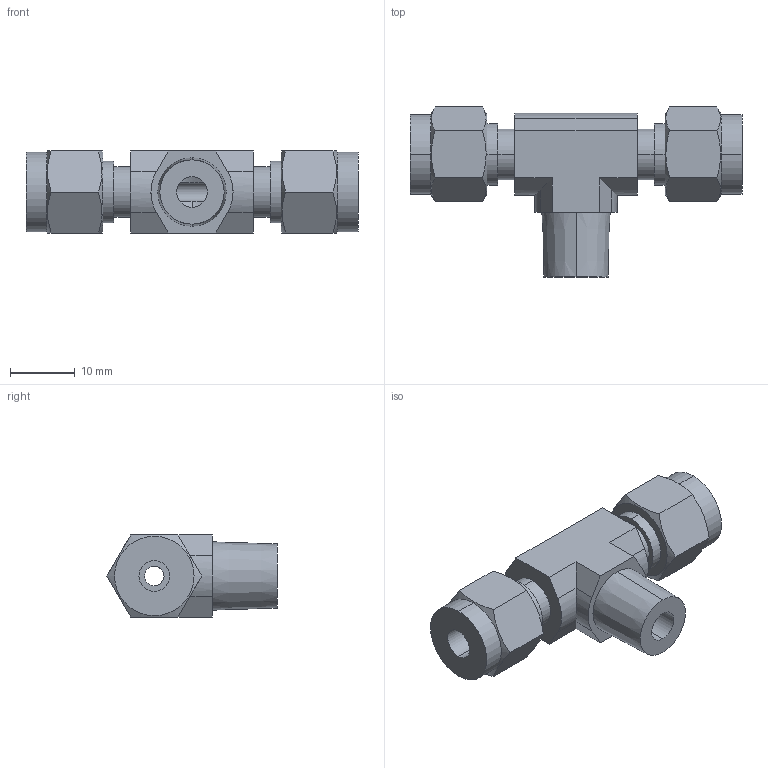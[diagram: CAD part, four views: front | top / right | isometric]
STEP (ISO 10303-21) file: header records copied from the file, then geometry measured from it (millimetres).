
FILE_DESCRIPTION (( 'STEP AP203' ), '1' );
FILE_NAME ('DTN 03-02 SS.STEP', '2009-09-08T10:09:15', ( 'Your User Name' ), ( 'Your Company Name' ), 'SwSTEP 2.0', 'SolidWorks 2008', '' );
FILE_SCHEMA (( 'CONFIG_CONTROL_DESIGN' ));
Length unit declared in the file: millimetre
Products named in the file (1): DTN 03-02 SS
Bounding box: 51.4 x 26.33 x 12.7 mm (x, y, z)
Volume: 6554 mm3; surface area: 3997.3 mm2
Topology: 1 solids, 1 shells, 75 faces, 182 edges, 117 vertices
Faces by surface type: plane 36, cylinder 26, cone 13
Entity records: 2528 total; most frequent: CARTESIAN_POINT 710, ORIENTED_EDGE 364, DIRECTION 351, EDGE_CURVE 182, AXIS2_PLACEMENT_3D 132, VERTEX_POINT 117, EDGE_LOOP 87, LINE 87
